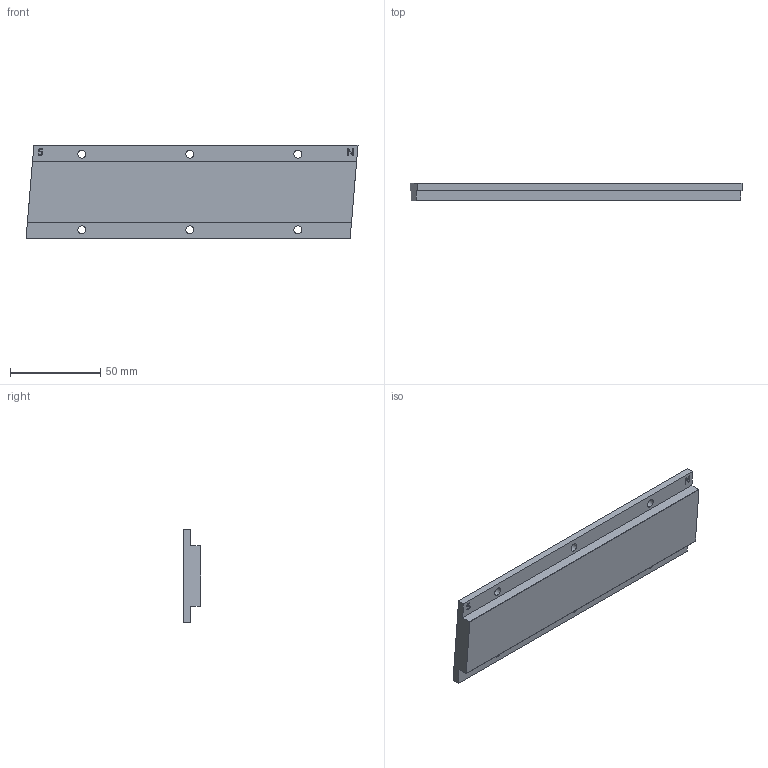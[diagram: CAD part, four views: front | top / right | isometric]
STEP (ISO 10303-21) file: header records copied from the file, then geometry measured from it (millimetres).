
FILE_DESCRIPTION( ( 'Unknown' ), '1' );
FILE_NAME( 'C:/Users/gyt/Desktop/电机制造图/DPD/DPD修改/官网3D/DPD56M180 .stp', 'Unknown', ( 'Unknown' ), ( 'Unknown' ), 'PSStep 17.0.49', 'Unknown', ' ' );
FILE_SCHEMA( ( 'AUTOMOTIVE_DESIGN { 1 0 10303 214 1 1 1 1 }' ) );
Length unit declared in the file: millimetre
Products named in the file (1): 1
Bounding box: 184.37 x 9.6 x 52 mm (x, y, z)
Volume: 71125.2 mm3; surface area: 23095.4 mm2
Topology: 1 solids, 1 shells, 36 faces, 96 edges, 64 vertices
Faces by surface type: plane 22, cylinder 8, extrusion 6
Full cylindrical faces by diameter (mm): 4.5 x6
Entity records: 1647 total; most frequent: CARTESIAN_POINT 488, ORIENTED_EDGE 180, DIRECTION 142, EDGE_CURVE 90, VERTEX_POINT 64, EDGE_LOOP 56, VECTOR 48, AXIS2_PLACEMENT_3D 47
